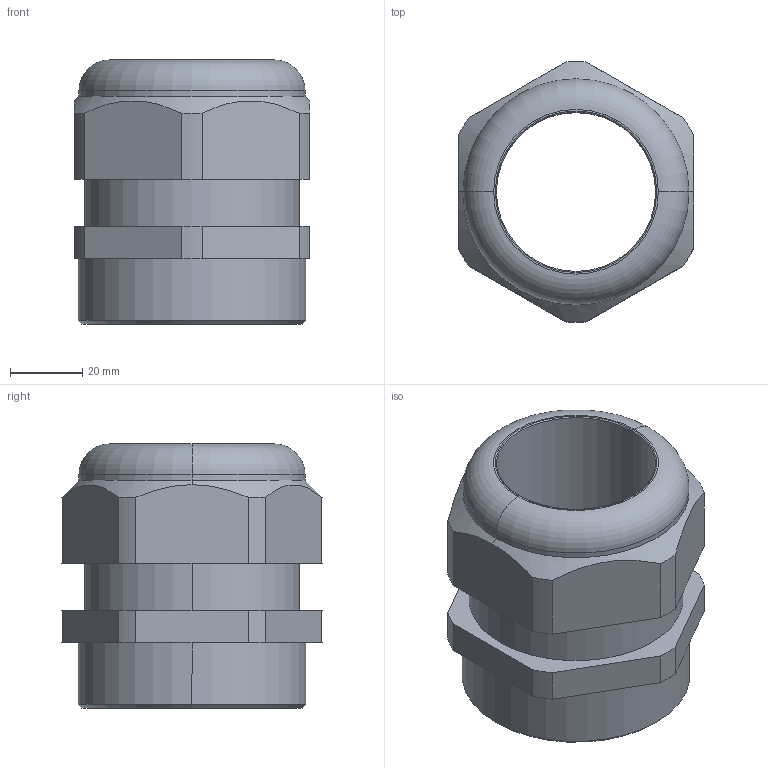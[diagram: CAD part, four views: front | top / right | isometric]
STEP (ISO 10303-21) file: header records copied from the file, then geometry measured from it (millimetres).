
FILE_DESCRIPTION (( 'STEP AP203' ), '1' );
FILE_NAME ('50048M63PA.STEP', '2005-09-19T13:09:58', ( ' ' ), ( '' ), 'SwSTEP 2.0', 'SolidWorks 2005143', '' );
FILE_SCHEMA (( 'CONFIG_CONTROL_DESIGN' ));
Length unit declared in the file: millimetre
Products named in the file (1): 50048M63PA
Bounding box: 65 x 71.97 x 73 mm (x, y, z)
Volume: 124041.7 mm3; surface area: 29786.4 mm2
Topology: 1 solids, 1 shells, 82 faces, 214 edges, 140 vertices
Faces by surface type: plane 54, cylinder 20, cone 4, torus 4
Entity records: 2669 total; most frequent: CARTESIAN_POINT 537, ORIENTED_EDGE 428, DIRECTION 422, EDGE_CURVE 214, VECTOR 156, LINE 156, VERTEX_POINT 140, AXIS2_PLACEMENT_3D 133
